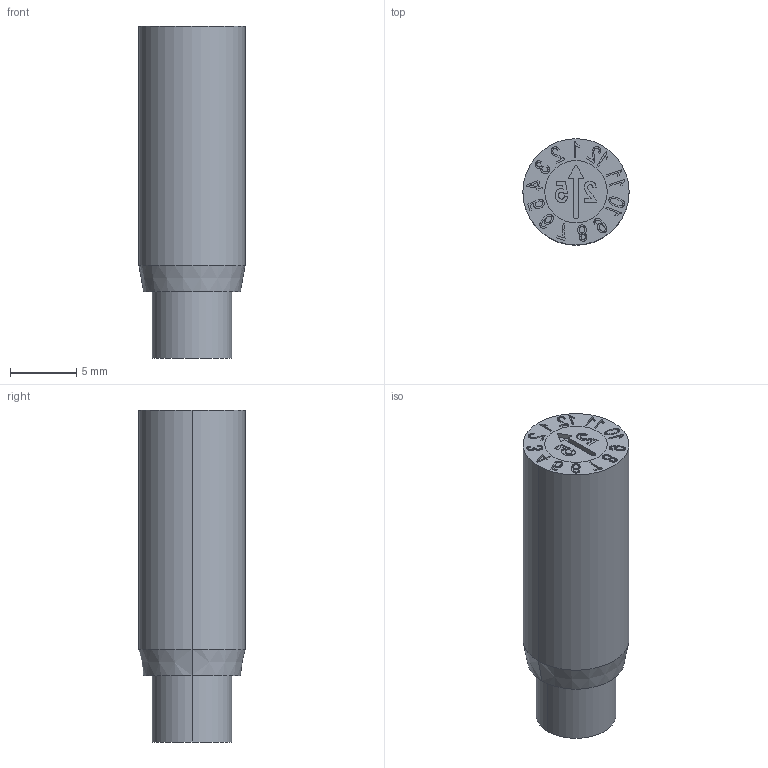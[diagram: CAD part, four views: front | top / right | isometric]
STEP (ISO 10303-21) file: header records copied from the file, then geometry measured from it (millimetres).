
FILE_DESCRIPTION (( 'STEP AP214' ), '1' );
FILE_NAME ('DS 0847-25.STEP', '2024-08-06T16:45:25', ( '' ), ( '' ), 'SwSTEP 2.0', 'SolidWorks 2017', '' );
FILE_SCHEMA (( 'AUTOMOTIVE_DESIGN' ));
Length unit declared in the file: millimetre
Products named in the file (1): DS 0847-25
Bounding box: 8 x 8 x 25 mm (x, y, z)
Surface area: 1054.4 mm2 (no closed solid volume)
Topology: 0 solids, 3 shells, 258 faces, 674 edges, 445 vertices
Faces by surface type: bspline 118, plane 113, cylinder 19, cone 8
Entity records: 17031 total; most frequent: CARTESIAN_POINT 8590, ORIENTED_EDGE 1340, DIRECTION 760, EDGE_CURVE 672, VERTEX_POINT 445, VECTOR 394, LINE 394, EDGE_LOOP 285
